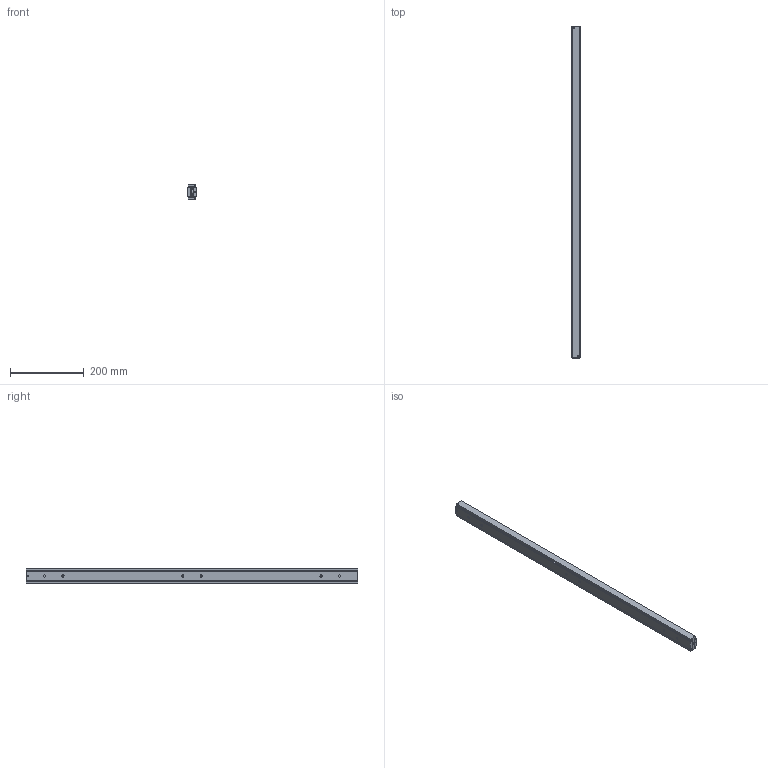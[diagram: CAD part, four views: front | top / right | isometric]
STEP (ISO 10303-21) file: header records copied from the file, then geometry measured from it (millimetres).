
FILE_DESCRIPTION(/* description */ (''),/* implementation_level */ '2;1');
FILE_NAME(/* name */ 'C:\Users\Miluxor\Desktop\Miluxor Schienen\Original Zeichnungen\Zeichnungen Schienen Komplett\MX-DTP40\MX-DTP40.090\MX-DTP40.090_eingefahren.stp',/* time_stamp */ '2019-09-17T11:46:52+02:00',/* author */ ('Miluxor'),/* organization */ (''),/* preprocessor_version */ 'ST-DEVELOPER v16.13',/* originating_system */ 'AutoCAD Mechanical',/* authorisation */ '');
FILE_SCHEMA (('AUTOMOTIVE_DESIGN { 1 0 10303 214 3 1 1 }'));
Products named in the file (1): Product
Bounding box: 24 x 900 x 40.5 mm (x, y, z)
Volume: 684124.7 mm3; surface area: 344753.5 mm2
Topology: 113 solids, 113 shells, 702 faces, 1796 edges, 1192 vertices
Faces by surface type: plane 452, cylinder 100, bspline 68, sphere 68, cone 8, torus 6
Full cylindrical faces by diameter (mm): 4 x2, 6 x80, 10 x2
Entity records: 57531 total; most frequent: CARTESIAN_POINT 41485, ORIENTED_EDGE 3104, DIRECTION 2940, EDGE_CURVE 1552, VERTEX_POINT 1182, LINE 1074, VECTOR 1074, EDGE_LOOP 968
